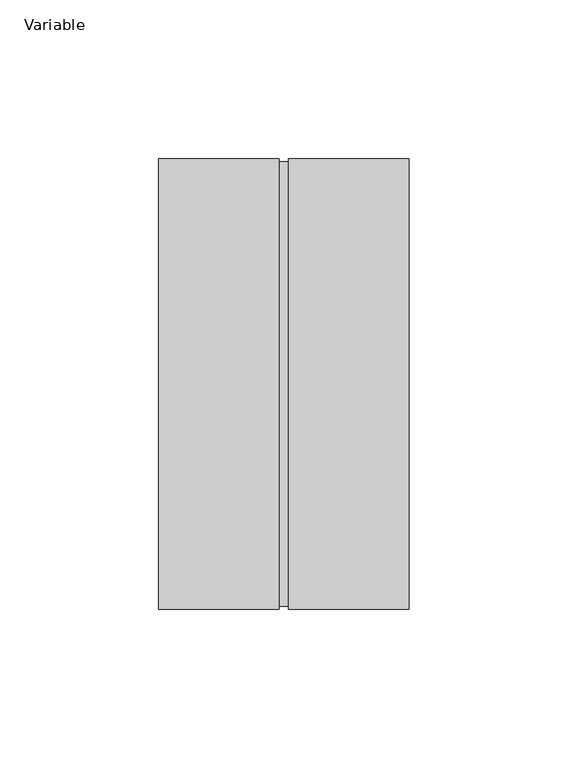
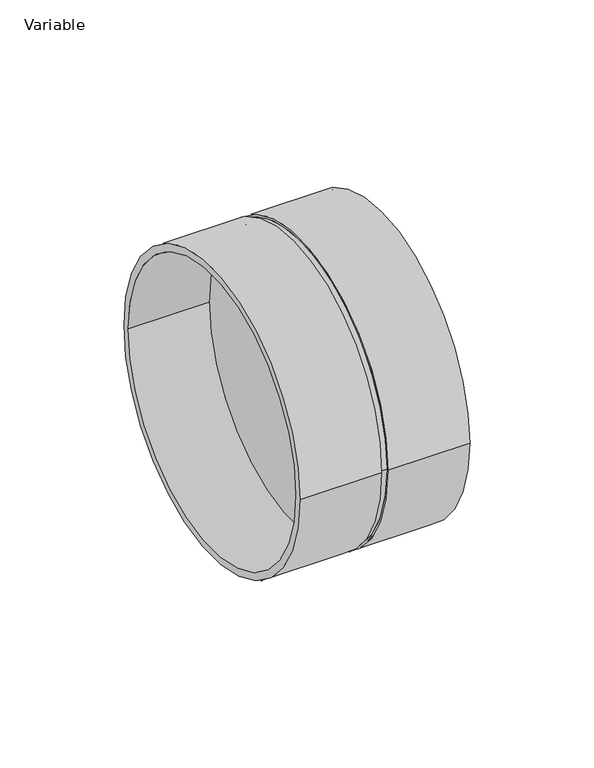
"""IFC4 building model written with IfcOpenShell, lengths in millimetres: pipe fitting geometry, AliaxisFR_Friaphon_RepairCoupling_FR : Variable."""

from ifc_helpers import new_model, si_unit, point, frame, origin, origin_2d, place, context, project, spatial, circle_curve, trimmed, segment, composite_curve, outline, extrude, source, transform, mapped, element, save


def variable_e0f0e077(model_context):
    return source(origin(), model_context, "Body", "SweptSolid", [
        extrude(outline(composite_curve([segment(trimmed(circle_curve(origin_2d(), 71.0), [point((-71.0, 0.0))], [point((71.0, 0.0))], False, "CARTESIAN"), True, "CONTINUOUS"), segment(trimmed(circle_curve(origin_2d(), 71.0), [point((71.0, 0.0))], [point((-71.0, 0.0))], False, "CARTESIAN"), True, "CONTINUOUS")], self_intersect=False), holes=[composite_curve([segment(trimmed(circle_curve(origin_2d(), 70.0), [point((-70.0, 0.0))], [point((70.0, 0.0))], True, "CARTESIAN"), True, "CONTINUOUS"), segment(trimmed(circle_curve(origin_2d(), 70.0), [point((70.0, 0.0))], [point((-70.0, 0.0))], True, "CARTESIAN"), True, "CONTINUOUS")], self_intersect=False)]), frame((41.0, 0.0, 0.0), z_axis=(1.0, 0.0, 0.0), x_axis=(0.0, 1.0, 0.0)), (0.0, 0.0, 1.0), 38.0),
        extrude(outline(composite_curve([segment(trimmed(circle_curve(origin_2d(), 70.0), [point((-70.0, 0.0))], [point((70.0, 0.0))], False, "CARTESIAN"), True, "CONTINUOUS"), segment(trimmed(circle_curve(origin_2d(), 70.0), [point((70.0, 0.0))], [point((-70.0, 0.0))], False, "CARTESIAN"), True, "CONTINUOUS")], self_intersect=False)), frame((38.0, 0.0, 0.0), z_axis=(1.0, 0.0, 0.0), x_axis=(0.0, 1.0, 0.0)), (0.0, 0.0, 1.0), 3.0),
        extrude(outline(composite_curve([segment(trimmed(circle_curve(origin_2d(), 71.0), [point((-71.0, 0.0))], [point((71.0, 0.0))], False, "CARTESIAN"), True, "CONTINUOUS"), segment(trimmed(circle_curve(origin_2d(), 71.0), [point((71.0, 0.0))], [point((-71.0, 0.0))], False, "CARTESIAN"), True, "CONTINUOUS")], self_intersect=False), holes=[composite_curve([segment(trimmed(circle_curve(origin_2d(), 67.5), [point((-67.5, 0.0))], [point((67.5, 0.0))], True, "CARTESIAN"), True, "CONTINUOUS"), segment(trimmed(circle_curve(origin_2d(), 67.5), [point((67.5, 0.0))], [point((-67.5, 0.0))], True, "CARTESIAN"), True, "CONTINUOUS")], self_intersect=False)]), frame((0.0, 0.0, 0.0), z_axis=(1.0, 0.0, 0.0), x_axis=(0.0, 1.0, 0.0)), (0.0, 0.0, 1.0), 38.0),
    ])


if __name__ == "__main__":
    model = new_model("IFC4")
    model_context = context("Model", 3, world=origin())
    ifc_project = project(units=[si_unit("LENGTHUNIT", "METRE", prefix="MILLI")], contexts=[model_context])
    site = spatial("IfcSite", under=ifc_project)
    building = spatial("IfcBuilding", under=site)
    placement = place(None, origin())
    variable_shape = variable_e0f0e077(model_context)
    element("IfcPipeFitting", 1, ObjectType="AliaxisFR_Friaphon_RepairCoupling_FR : Variable", at=placement, inside=building, context=model_context, shape_type="MappedRepresentation", body=[
        mapped(variable_shape, transform((0.0, 0.0, 0.0), x_axis=(1.0, 0.0, 0.0), y_axis=(0.0, 1.0, 0.0), z_axis=(0.0, 0.0, 1.0))),
    ])
    save(model, "model.ifc")
